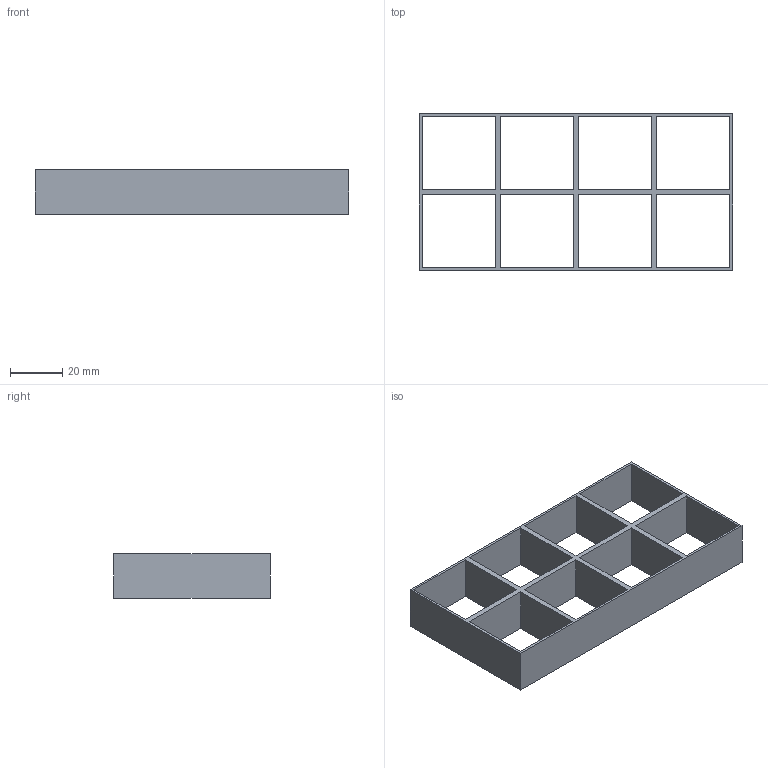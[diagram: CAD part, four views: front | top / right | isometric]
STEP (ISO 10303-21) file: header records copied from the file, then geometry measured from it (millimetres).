
FILE_DESCRIPTION (( 'STEP AP214' ), '1' );
FILE_NAME ('Base_02 - LARGE.STEP', '2025-08-13T18:31:05', ( '' ), ( '' ), 'SwSTEP 2.0', 'SolidWorks 2024', '' );
FILE_SCHEMA (( 'AUTOMOTIVE_DESIGN' ));
Length unit declared in the file: millimetre
Products named in the file (1): Base_02 - LARGE
Bounding box: 120 x 60 x 17.17 mm (x, y, z)
Volume: 15930.7 mm3; surface area: 23417.3 mm2
Topology: 1 solids, 1 shells, 38 faces, 108 edges, 72 vertices
Faces by surface type: plane 38
Entity records: 1267 total; most frequent: CARTESIAN_POINT 219, ORIENTED_EDGE 216, DIRECTION 186, EDGE_CURVE 108, VECTOR 108, LINE 108, VERTEX_POINT 72, EDGE_LOOP 54
